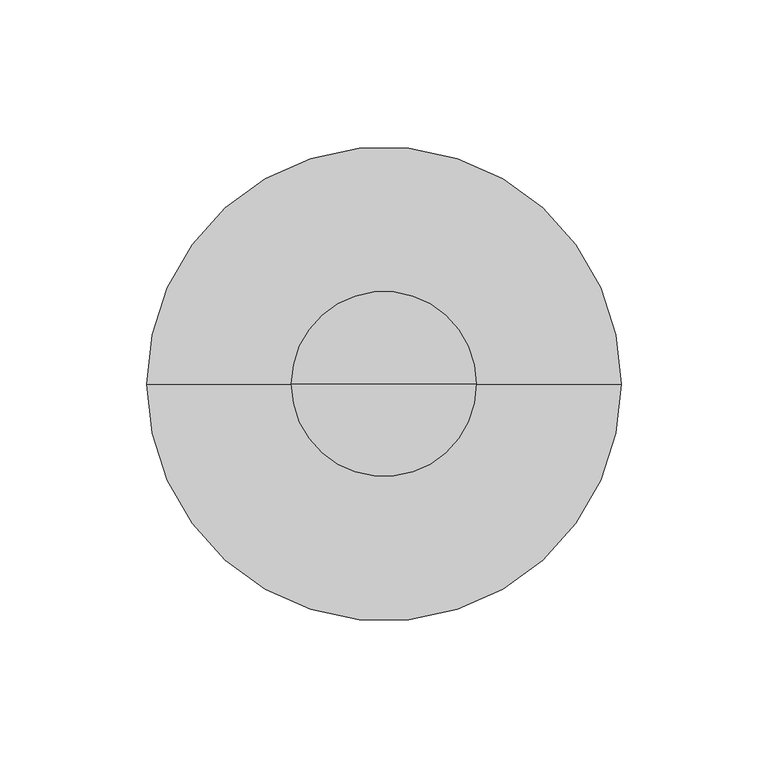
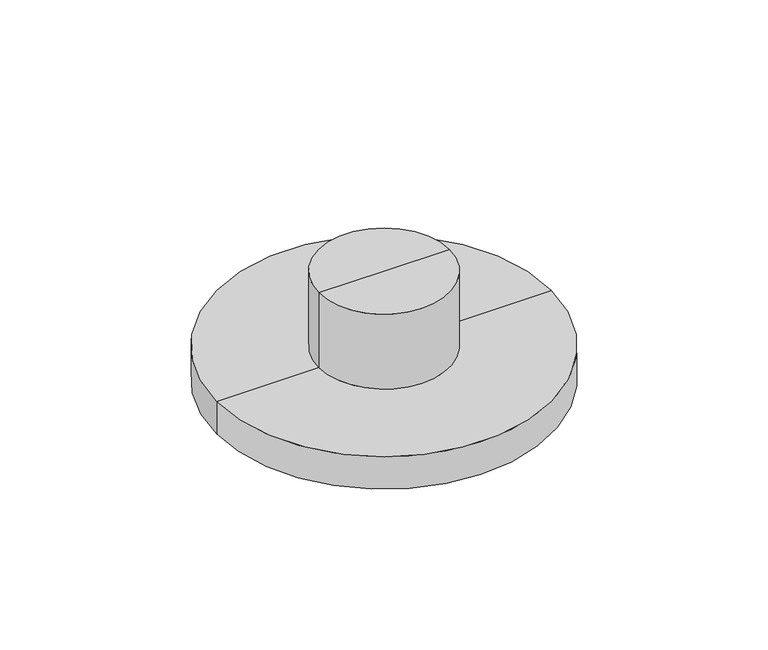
"""IFC4 building model written with IfcOpenShell, lengths in millimetres: proxy geometry, mug Showpeace : mug Showpeace."""

from ifc_helpers import new_model, si_unit, frame, origin, place, context, project, spatial, circle_curve, source, transform, mapped, element, save
from ifc_brep_helpers import plane_surface, cylinder_surface, advanced_brep


def generic_models_29f3e5fd(model_context):
    return source(origin(), model_context, "Body", "AdvancedBrep", [
        advanced_brep(
        [(-161.874075, 0.0, 886.315753), (-224.8415804, 0.0, 886.315753), (-224.8415804, 0.0, 924.415753), (-161.874075, 0.0, 924.415753), (-112.661575, 0.0, 886.315753), (-274.0540804, 0.0, 886.315753), (-112.661575, 0.0, 869.6932845), (-274.0540804, 0.0, 869.6932845), (-193.3578277, 0.0, 869.6932845), (-193.3578277, 0.0, 924.415753)],
        [
            (0, 1, circle_curve(frame((-193.3578277, 0.0, 886.315753), z_axis=(0.0, 0.0, 1.0), x_axis=(-1.0, 0.0, 0.0)), 31.4837527)),
            (1, 2),
            (2, 3, circle_curve(frame((-193.3578277, 0.0, 924.415753), z_axis=(0.0, 0.0, -1.0), x_axis=(-1.0, 0.0, 0.0)), 31.4837527)),
            (3, 0),
            (1, 0, circle_curve(frame((-193.3578277, 0.0, 886.315753), z_axis=(0.0, 0.0, 1.0), x_axis=(-1.0, 0.0, 0.0)), 31.4837527)),
            (3, 2, circle_curve(frame((-193.3578277, 0.0, 924.415753), z_axis=(0.0, 0.0, -1.0), x_axis=(-1.0, 0.0, 0.0)), 31.4837527)),
            (4, 5, circle_curve(frame((-193.3578277, 0.0, 886.315753), z_axis=(0.0, 0.0, 1.0), x_axis=(-1.0, 0.0, 0.0)), 80.6962527)),
            (5, 1),
            (0, 4),
            (5, 4, circle_curve(frame((-193.3578277, 0.0, 886.315753), z_axis=(0.0, 0.0, 1.0), x_axis=(-1.0, 0.0, 0.0)), 80.6962527)),
            (6, 7, circle_curve(frame((-193.3578277, 0.0, 869.6932845), z_axis=(0.0, 0.0, 1.0), x_axis=(-1.0, 0.0, 0.0)), 80.6962527)),
            (7, 5),
            (4, 6),
            (7, 6, circle_curve(frame((-193.3578277, 0.0, 869.6932845), z_axis=(0.0, 0.0, 1.0), x_axis=(-1.0, 0.0, 0.0)), 80.6962527)),
            (8, 7),
            (6, 8),
            (2, 9),
            (9, 3),
        ],
        [
            cylinder_surface(frame((-193.3578277, 0.0, 892.665753), z_axis=(0.0, 0.0, -1.0), x_axis=(-1.0, 0.0, 0.0)), 31.4837527),
            plane_surface(frame((-193.3578277, 0.0, 886.315753), z_axis=(0.0, 0.0, 1.0), x_axis=(-1.0, 0.0, 0.0))),
            cylinder_surface(frame((-193.3578277, 0.0, 892.665753), z_axis=(0.0, 0.0, -1.0), x_axis=(-1.0, 0.0, 0.0)), 80.6962527),
            plane_surface(frame((-193.3578277, 0.0, 869.6932845), z_axis=(0.0, 0.0, -1.0), x_axis=(-1.0, 0.0, 0.0))),
            plane_surface(frame((-193.3578277, 0.0, 924.415753), z_axis=(0.0, 0.0, 1.0), x_axis=(-1.0, 0.0, 0.0))),
        ],
        [
            (0, [[1, 2, 3, 4]]),
            (0, [[5, -4, 6, -2]]),
            (1, [[7, 8, -1, 9]]),
            (1, [[10, -9, -5, -8]]),
            (2, [[11, 12, -7, 13]]),
            (2, [[14, -13, -10, -12]]),
            (3, [[15, -11, 16]]),
            (3, [[-16, -14, -15]]),
            (4, [[-3, 17, 18]]),
            (4, [[-6, -18, -17]]),
        ],
    ),
    ])


if __name__ == "__main__":
    model = new_model("IFC4")
    model_context = context("Model", 3, world=origin())
    ifc_project = project(units=[si_unit("LENGTHUNIT", "METRE", prefix="MILLI")], contexts=[model_context])
    site = spatial("IfcSite", under=ifc_project)
    building = spatial("IfcBuilding", under=site)
    placement = place(None, origin())
    generic_models_shape = generic_models_29f3e5fd(model_context)
    element("IfcBuildingElementProxy", 1, Name="mug Showpeace : mug Showpeace", ObjectType="mug Showpeace : mug Showpeace", at=placement, inside=building, context=model_context, shape_type="MappedRepresentation", body=[
        mapped(generic_models_shape, transform((0.0, 0.0, 0.0), x_axis=(1.0, 0.0, 0.0), y_axis=(0.0, 1.0, 0.0), z_axis=(0.0, 0.0, 1.0))),
    ])
    save(model, "model.ifc")
